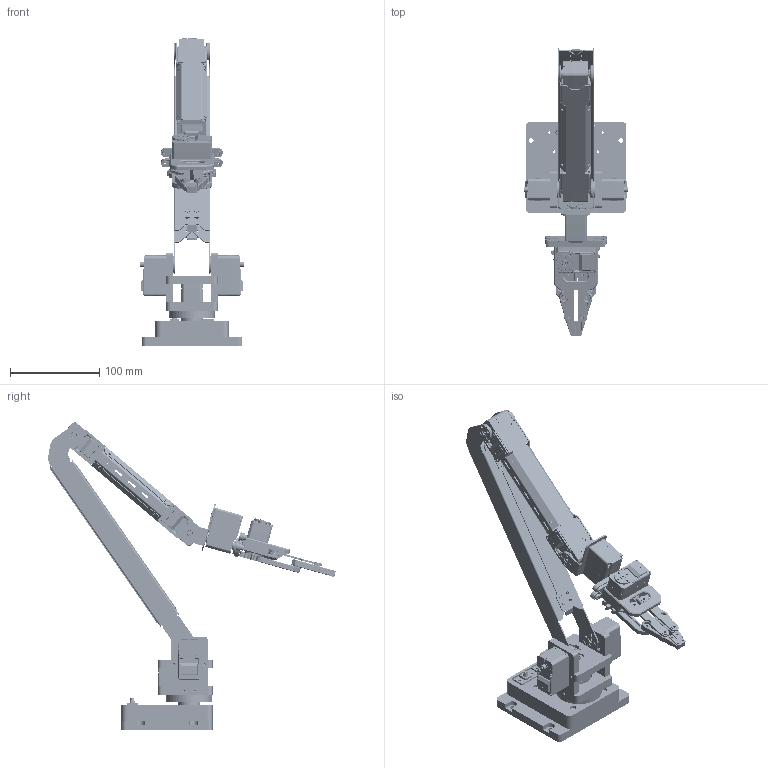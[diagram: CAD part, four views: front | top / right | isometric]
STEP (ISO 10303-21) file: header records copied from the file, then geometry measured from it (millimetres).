
FILE_DESCRIPTION(/* description */ (''),/* implementation_level */ '2;1');
FILE_NAME(/* name */ '5+1_DOF_Robotic_Arm.step',/* time_stamp */ '2025-12-19T19:20:13+08:00',/* author */ (''),/* organization */ (''),/* preprocessor_version */ 'ST-DEVELOPER v20.1',/* originating_system */ 'Autodesk Translation Framework v14.21.0.0',/* authorisation */ '');
FILE_SCHEMA (('AUTOMOTIVE_DESIGN { 1 0 10303 214 3 1 1 }'));
Products named in the file (52): LY_ARM_DEMO04; XRU1008UUCC0P5; CNC底座 数量3 v1; 零部件13; ST3215; CNC肩关节水平 数量3 v1; 零部件15; CNC肩关节垂直 数量5 v1; 零部件14; ST3215_1; ST3215_2; 大臂A; 大臂B; 大臂C; 大臂D; ST3215_3; 小臂A; 小臂B; 小臂C; ST3215_4; E-GRIPPER-01; 驱动连杆A; 零部件9; 从动连杆A; 零部件10; 夹头A; 零部件11; ST3215_5; 限位连杆; F3-8M; 夹头B (1); 零部件13_1; MF63ZZ; 防滑垫; 防滑垫_1; 零部件14_1; 底座B; 手腕Base; 夹爪Base; ST3215_6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
Assembly tree (119 placements, depth 4):
  LY_ARM_DEMO04
    XRU1008UUCC0P5
    CNC底座 数量3 v1
      零部件13
    ST3215
      ZK_122
      SG-ZIJI_15
      XG-ZIJI_16
      MOTOR-1723_3
      PCB-CHAZUO_92
      GE_27
      金属舵盘（驱动）
    CNC肩关节水平 数量3 v1
      零部件15
    CNC肩关节垂直 数量5 v1  x2
      零部件14
    ST3215_1
      ZK_122
      SG-ZIJI_15
      XG-ZIJI_16
      MOTOR-1723_3
      PCB-CHAZUO_92
      GE_27
      金属舵盘（驱动）
    ST3215_2
      ZK_122
      SG-ZIJI_15
      XG-ZIJI_16
      MOTOR-1723_3
      PCB-CHAZUO_92
      GE_27
      金属舵盘（驱动）
    大臂A
    大臂B
    大臂C
    大臂D
    ST3215_3
      ZK_122
      SG-ZIJI_15
      XG-ZIJI_16
      MOTOR-1723_3
      PCB-CHAZUO_92
      GE_27
      金属舵盘（驱动）
      金属舵盘（从动）
    小臂A
    小臂B
    小臂C  x2
    ST3215_4
      ZK_122
      SG-ZIJI_15
      XG-ZIJI_16
      MOTOR-1723_3
      PCB-CHAZUO_92
      GE_27
      金属舵盘（驱动）
      金属舵盘（从动）
    E-GRIPPER-01
      驱动连杆A
        零部件9
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Bounding box: 115.85 x 322.27 x 343.95 mm (x, y, z)
Volume: 681641.2 mm3; surface area: 377710.6 mm2
Topology: 101 solids, 171 shells, 10184 faces, 27208 edges, 17705 vertices
Faces by surface type: cylinder 4365, plane 4112, bspline 916, cone 490, torus 203, sphere 98
Full cylindrical faces by diameter (mm): 1 x7, 1.2 x7, 1.5 x7, 1.6 x100, 2 x38, 2.2 x79, 2.4 x16, 2.5 x225, 2.529 x16, 2.6 x7, 3 x73, 3.04 x16, 3.2 x7, 3.5 x21, 4 x11, 4.7 x7, 5 x18, 6 x55, 6.05 x4, 6.1 x7, 6.2 x7, 6.5 x20, 7 x6, 7.2 x18, 7.4 x1, 7.5 x9, 8 x15, 8.1 x7, 8.6 x4, 8.92 x4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
Entity records: 126742 total; most frequent: CARTESIAN_POINT 43420, DIRECTION 17299, ORIENTED_EDGE 17142, EDGE_CURVE 8571, AXIS2_PLACEMENT_3D 6259, VERTEX_POINT 5547, LINE 4781, VECTOR 4781
